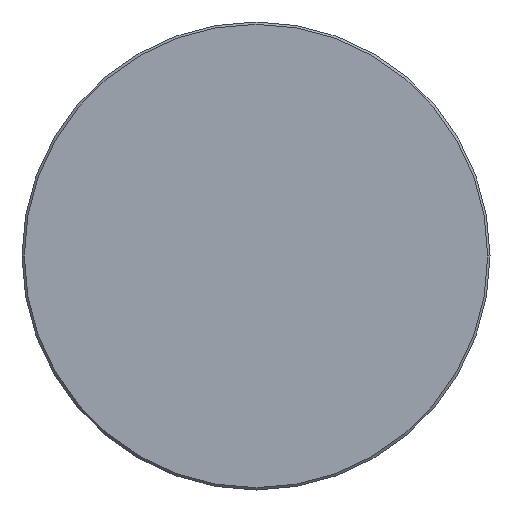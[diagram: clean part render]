
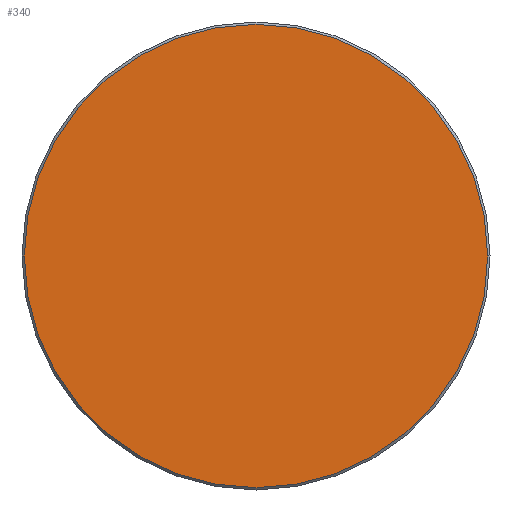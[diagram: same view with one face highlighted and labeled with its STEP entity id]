
A CAD part, left-side view. The second image highlights one B-rep face of the part: STEP entity #340.
In plain terms, the highlighted planar face has unit normal (-1, 0, 0).
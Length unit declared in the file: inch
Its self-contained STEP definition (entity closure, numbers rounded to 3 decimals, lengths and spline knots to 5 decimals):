
#4 = VERTEX_POINT ( 'NONE', #334 ) ;
#5 = DIRECTION ( 'NONE',  ( 0., -1., 0. ) ) ;
#13 = CARTESIAN_POINT ( 'NONE',  ( 0., 0., 0. ) ) ;
#19 = CIRCLE ( 'NONE', #148, 0.40225 ) ;
#22 = EDGE_CURVE ( 'NONE', #254, #4, #19, .T. ) ;
#25 = AXIS2_PLACEMENT_3D ( 'NONE', #288, #237, #292 ) ;
#26 = CARTESIAN_POINT ( 'NONE',  ( 0., 0.40225, 0. ) ) ;
#40 = DIRECTION ( 'NONE',  ( 0., -1., 0. ) ) ;
#75 = DIRECTION ( 'NONE',  ( -1., 0., 0. ) ) ;
#87 = EDGE_LOOP ( 'NONE', ( #350, #162 ) ) ;
#89 = FACE_OUTER_BOUND ( 'NONE', #87, .T. ) ;
#92 = PLANE ( 'NONE',  #304 ) ;
#104 = CIRCLE ( 'NONE', #25, 0.40225 ) ;
#121 = EDGE_CURVE ( 'NONE', #4, #254, #104, .T. ) ;
#148 = AXIS2_PLACEMENT_3D ( 'NONE', #13, #75, #40 ) ;
#162 = ORIENTED_EDGE ( 'NONE', *, *, #121, .T. ) ;
#212 = DIRECTION ( 'NONE',  ( -1., 0., 0. ) ) ;
#218 = CARTESIAN_POINT ( 'NONE',  ( 0., 0., 0. ) ) ;
#237 = DIRECTION ( 'NONE',  ( -1., 0., 0. ) ) ;
#254 = VERTEX_POINT ( 'NONE', #26 ) ;
#288 = CARTESIAN_POINT ( 'NONE',  ( 0., 0., 0. ) ) ;
#292 = DIRECTION ( 'NONE',  ( 0., -1., 0. ) ) ;
#304 = AXIS2_PLACEMENT_3D ( 'NONE', #218, #212, #5 ) ;
#334 = CARTESIAN_POINT ( 'NONE',  ( 0., -0.40225, 0. ) ) ;
#340 = ADVANCED_FACE ( 'NONE', ( #89 ), #92, .T. ) ;
#350 = ORIENTED_EDGE ( 'NONE', *, *, #22, .T. ) ;
